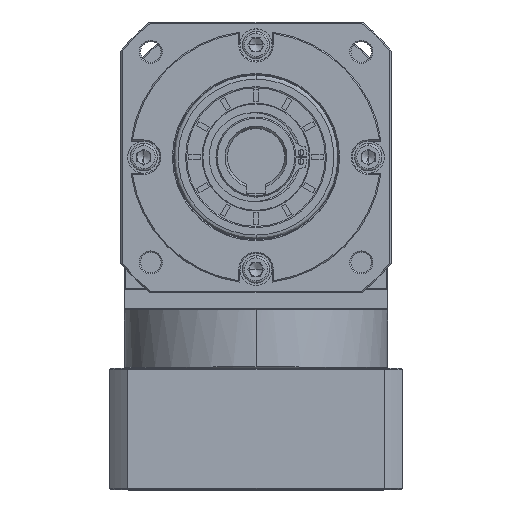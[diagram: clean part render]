
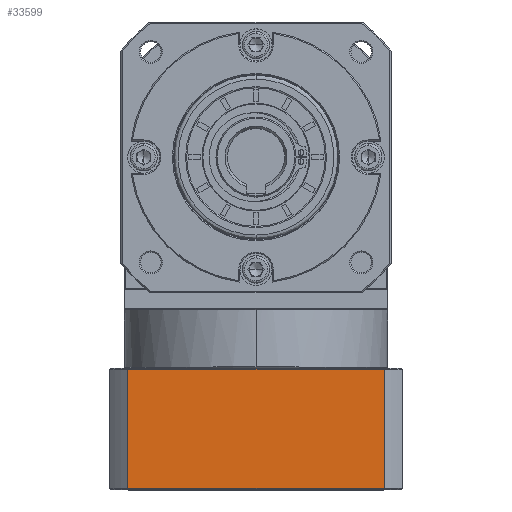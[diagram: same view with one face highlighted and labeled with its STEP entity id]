
A CAD part, top view. The second image highlights one B-rep face of the part: STEP entity #33599.
In plain terms, the highlighted planar face has unit normal (0, 0, 1).
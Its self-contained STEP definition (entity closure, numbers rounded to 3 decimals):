
#2886 = VERTEX_POINT ( 'NONE', #153744 ) ;
#11112 = LINE ( 'NONE', #140997, #119997 ) ;
#18516 = ORIENTED_EDGE ( 'NONE', *, *, #24123, .F. ) ;
#20038 = ORIENTED_EDGE ( 'NONE', *, *, #30056, .F. ) ;
#24123 = EDGE_CURVE ( 'NONE', #101121, #163489, #113214, .T. ) ;
#27753 = CARTESIAN_POINT ( 'NONE',  ( -174.408, -135.379, 71.787 ) ) ;
#30056 = EDGE_CURVE ( 'NONE', #2886, #80116, #11112, .T. ) ;
#33070 = VECTOR ( 'NONE', #50271, 1000. ) ;
#33599 = ADVANCED_FACE ( 'NONE', ( #59210 ), #73514, .F. ) ;
#33935 = VECTOR ( 'NONE', #130472, 1000. ) ;
#41972 = CARTESIAN_POINT ( 'NONE',  ( -174.408, 107.942, 71.787 ) ) ;
#47936 = LINE ( 'NONE', #164267, #141014 ) ;
#50271 = DIRECTION ( 'NONE',  ( 1., 0., 0. ) ) ;
#59210 = FACE_OUTER_BOUND ( 'NONE', #71599, .T. ) ;
#71599 = EDGE_LOOP ( 'NONE', ( #18516, #78331, #20038, #122714 ) ) ;
#73514 = PLANE ( 'NONE',  #110697 ) ;
#73926 = DIRECTION ( 'NONE',  ( -1., 0., 0. ) ) ;
#78331 = ORIENTED_EDGE ( 'NONE', *, *, #146999, .F. ) ;
#80116 = VERTEX_POINT ( 'NONE', #124701 ) ;
#86341 = CARTESIAN_POINT ( 'NONE',  ( -294.345, -187.879, 71.787 ) ) ;
#87409 = DIRECTION ( 'NONE',  ( -1., 0., 0. ) ) ;
#89055 = CARTESIAN_POINT ( 'NONE',  ( -294.345, -135.379, 71.787 ) ) ;
#90675 = DIRECTION ( 'NONE',  ( 0., 1., 0. ) ) ;
#100618 = EDGE_CURVE ( 'NONE', #163489, #2886, #47936, .T. ) ;
#101121 = VERTEX_POINT ( 'NONE', #27753 ) ;
#110697 = AXIS2_PLACEMENT_3D ( 'NONE', #86341, #163281, #87409 ) ;
#113214 = LINE ( 'NONE', #41972, #33935 ) ;
#119184 = CARTESIAN_POINT ( 'NONE',  ( -174.408, -187.379, 71.787 ) ) ;
#119997 = VECTOR ( 'NONE', #90675, 1000. ) ;
#122714 = ORIENTED_EDGE ( 'NONE', *, *, #100618, .F. ) ;
#124701 = CARTESIAN_POINT ( 'NONE',  ( -286.283, -135.379, 71.787 ) ) ;
#130472 = DIRECTION ( 'NONE',  ( 0., -1., 0. ) ) ;
#140997 = CARTESIAN_POINT ( 'NONE',  ( -286.283, -187.879, 71.787 ) ) ;
#141014 = VECTOR ( 'NONE', #73926, 1000. ) ;
#146999 = EDGE_CURVE ( 'NONE', #80116, #101121, #161792, .T. ) ;
#153744 = CARTESIAN_POINT ( 'NONE',  ( -286.283, -187.379, 71.787 ) ) ;
#161792 = LINE ( 'NONE', #89055, #33070 ) ;
#163281 = DIRECTION ( 'NONE',  ( 0., 0., -1. ) ) ;
#163489 = VERTEX_POINT ( 'NONE', #119184 ) ;
#164267 = CARTESIAN_POINT ( 'NONE',  ( -294.345, -187.379, 71.787 ) ) ;
